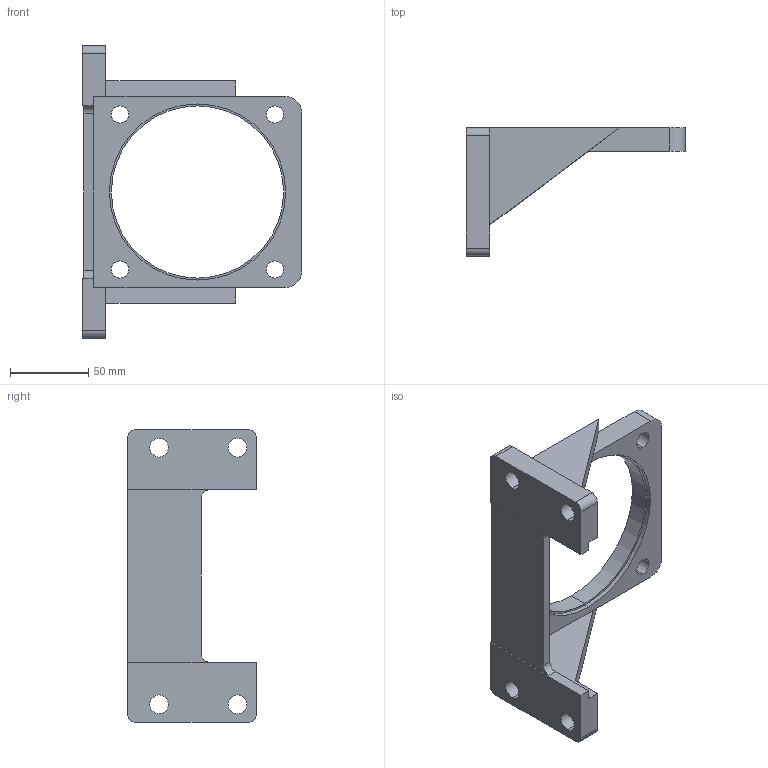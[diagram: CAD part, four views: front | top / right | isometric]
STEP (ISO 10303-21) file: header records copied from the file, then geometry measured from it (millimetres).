
FILE_DESCRIPTION (( 'STEP AP203' ), '1' );
FILE_NAME ('M7假蚾盓殤.STEP', '2018-12-10T06:14:06', ( 'china' ), ( 'china' ), 'SwSTEP 2.0', 'SolidWorks 2014', '' );
FILE_SCHEMA (( 'CONFIG_CONTROL_DESIGN' ));
Length unit declared in the file: millimetre
Products named in the file (1): M7假蚾盓殤
Bounding box: 140 x 82 x 187 mm (x, y, z)
Volume: 255458.4 mm3; surface area: 63610.8 mm2
Topology: 1 solids, 1 shells, 53 faces, 148 edges, 98 vertices
Faces by surface type: cylinder 28, plane 25
Entity records: 1835 total; most frequent: DIRECTION 312, CARTESIAN_POINT 300, ORIENTED_EDGE 296, EDGE_CURVE 148, AXIS2_PLACEMENT_3D 110, VERTEX_POINT 98, LINE 92, VECTOR 92
